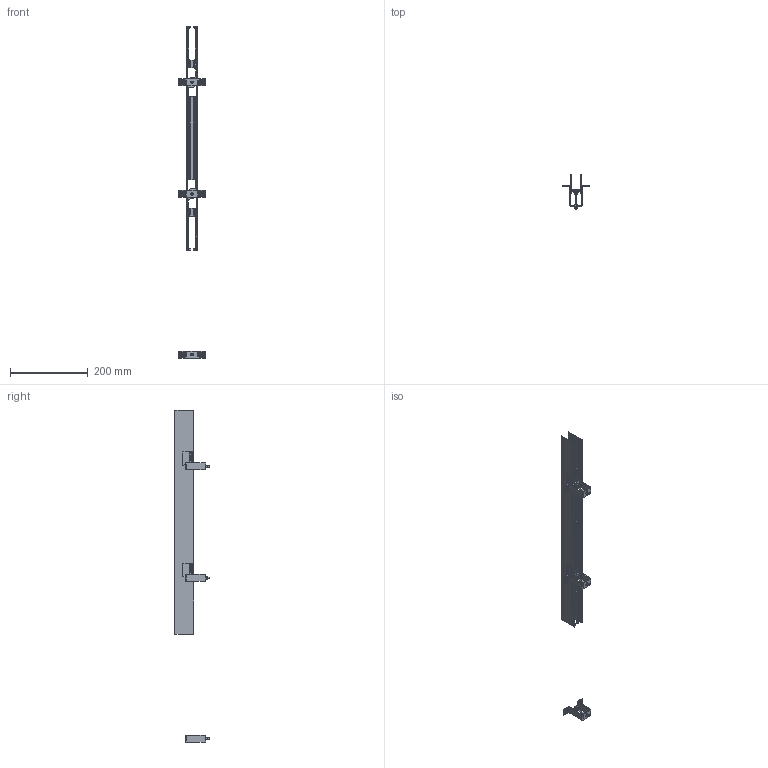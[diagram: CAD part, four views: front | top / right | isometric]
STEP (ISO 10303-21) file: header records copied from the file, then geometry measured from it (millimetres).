
FILE_DESCRIPTION(/* description */ ('Unknown'),/* implementation_level */ '2;1');
FILE_NAME(/* name */ '98434',/* time_stamp */ '2023-02-07T07:36:12-05:00',/* author */ ('Unknown'),/* organization */ ('Unknown'),/* preprocessor_version */ 'ST-DEVELOPER v18.1',/* originating_system */ 'Solid Edge',/* authorisation */ 'Unknown');
FILE_SCHEMA (('AUTOMOTIVE_DESIGN {1 0 10303 214 3 1 1}'));
Length unit declared in the file: millimetre
Products named in the file (9): CONTROCASSA_PER _CARTONGESSO; LED-PRO973; LED-VIT061; LED-RON101; LED-RON006; LED-DAD026; STAFFA+INSERTO; LED-STA310; INSERTO
Assembly tree (18 placements, depth 3):
  CONTROCASSA_PER _CARTONGESSO
    LED-PRO973
    LED-VIT061  x3
    LED-RON101  x3
    LED-RON006  x3
    LED-DAD026  x3
    STAFFA+INSERTO  x3
      LED-STA310
      INSERTO
Bounding box: 69.52 x 89 x 854 mm (x, y, z)
Volume: 129926 mm3; surface area: 160933.5 mm2
Topology: 19 solids, 19 shells, 664 faces, 1930 edges, 1308 vertices
Faces by surface type: cylinder 392, plane 222, cone 32, torus 18
Full cylindrical faces by diameter (mm): 2.8 x162, 3.422 x6, 4 x3, 4.2 x2, 5 x6, 5.9 x3, 6 x3, 6.4 x3, 8 x3, 8.8 x3, 10 x3, 18 x3
Entity records: 14044 total; most frequent: CARTESIAN_POINT 2755, DIRECTION 2252, ORIENTED_EDGE 2164, EDGE_CURVE 1082, AXIS2_PLACEMENT_3D 869, VERTEX_POINT 772, EDGE_LOOP 606, FACE_BOUND 606
